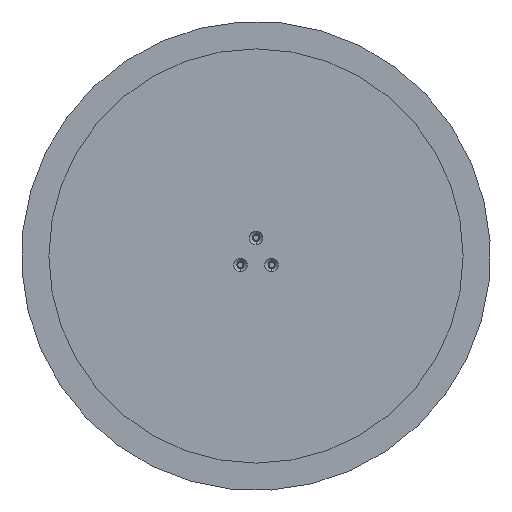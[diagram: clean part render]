
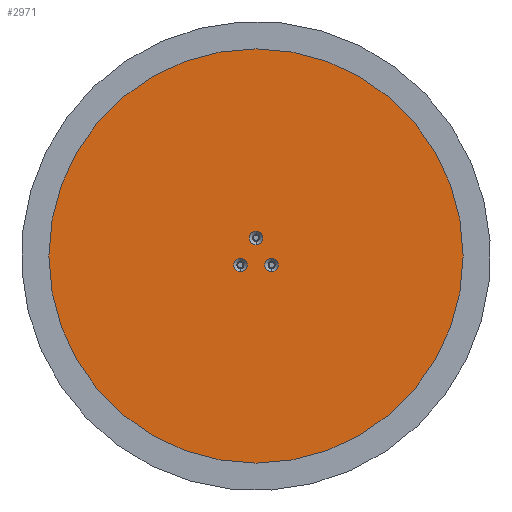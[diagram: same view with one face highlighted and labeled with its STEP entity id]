
A CAD part, front view. The second image highlights one B-rep face of the part: STEP entity #2971.
In plain terms, the highlighted planar face has unit normal (0, -1, 0).
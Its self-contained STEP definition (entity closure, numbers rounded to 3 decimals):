
#119 = ORIENTED_EDGE ( 'NONE', *, *, #4651, .F. ) ;
#135 = CARTESIAN_POINT ( 'NONE',  ( -20., 0., -20.197 ) ) ;
#201 = EDGE_LOOP ( 'NONE', ( #119, #4192 ) ) ;
#203 = VERTEX_POINT ( 'NONE', #3864 ) ;
#217 = FACE_BOUND ( 'NONE', #4237, .T. ) ;
#219 = AXIS2_PLACEMENT_3D ( 'NONE', #2566, #1546, #433 ) ;
#329 = AXIS2_PLACEMENT_3D ( 'NONE', #934, #3479, #1999 ) ;
#433 = DIRECTION ( 'NONE',  ( 0., 0., -1. ) ) ;
#555 = DIRECTION ( 'NONE',  ( 0., -1., 0. ) ) ;
#797 = DIRECTION ( 'NONE',  ( 0., 0., -1. ) ) ;
#934 = CARTESIAN_POINT ( 'NONE',  ( 0., 0., 0. ) ) ;
#980 = CARTESIAN_POINT ( 'NONE',  ( 0., 0., -265. ) ) ;
#997 = DIRECTION ( 'NONE',  ( 0., 0., 1. ) ) ;
#1020 = AXIS2_PLACEMENT_3D ( 'NONE', #4277, #1027, #1754 ) ;
#1027 = DIRECTION ( 'NONE',  ( 0., -1., 0. ) ) ;
#1041 = AXIS2_PLACEMENT_3D ( 'NONE', #4466, #3423, #3703 ) ;
#1198 = CIRCLE ( 'NONE', #2251, 8.65 ) ;
#1233 = CARTESIAN_POINT ( 'NONE',  ( 0., 0., 14.444 ) ) ;
#1413 = DIRECTION ( 'NONE',  ( 0., 1., 0. ) ) ;
#1432 = CIRCLE ( 'NONE', #219, 8.65 ) ;
#1491 = CIRCLE ( 'NONE', #2019, 265. ) ;
#1546 = DIRECTION ( 'NONE',  ( 0., -1., 0. ) ) ;
#1587 = FACE_BOUND ( 'NONE', #4220, .T. ) ;
#1638 = CIRCLE ( 'NONE', #3089, 8.65 ) ;
#1683 = AXIS2_PLACEMENT_3D ( 'NONE', #2098, #1413, #997 ) ;
#1684 = VERTEX_POINT ( 'NONE', #4670 ) ;
#1716 = CIRCLE ( 'NONE', #1041, 8.65 ) ;
#1754 = DIRECTION ( 'NONE',  ( 0., 0., -1. ) ) ;
#1813 = ORIENTED_EDGE ( 'NONE', *, *, #4617, .F. ) ;
#1819 = ORIENTED_EDGE ( 'NONE', *, *, #2803, .F. ) ;
#1999 = DIRECTION ( 'NONE',  ( 0., 0., 1. ) ) ;
#2019 = AXIS2_PLACEMENT_3D ( 'NONE', #2647, #3036, #4154 ) ;
#2048 = ORIENTED_EDGE ( 'NONE', *, *, #4664, .F. ) ;
#2098 = CARTESIAN_POINT ( 'NONE',  ( 0., 0., 0. ) ) ;
#2214 = EDGE_CURVE ( 'NONE', #3595, #2255, #1198, .T. ) ;
#2251 = AXIS2_PLACEMENT_3D ( 'NONE', #3809, #555, #3093 ) ;
#2252 = DIRECTION ( 'NONE',  ( 0., -1., 0. ) ) ;
#2255 = VERTEX_POINT ( 'NONE', #2846 ) ;
#2300 = CARTESIAN_POINT ( 'NONE',  ( 0., 0., 23.094 ) ) ;
#2566 = CARTESIAN_POINT ( 'NONE',  ( 0., 0., 23.094 ) ) ;
#2647 = CARTESIAN_POINT ( 'NONE',  ( 0., 0., 0. ) ) ;
#2709 = VERTEX_POINT ( 'NONE', #3104 ) ;
#2747 = CIRCLE ( 'NONE', #1683, 265. ) ;
#2803 = EDGE_CURVE ( 'NONE', #2970, #2709, #2747, .T. ) ;
#2846 = CARTESIAN_POINT ( 'NONE',  ( -20., 0., -2.897 ) ) ;
#2873 = AXIS2_PLACEMENT_3D ( 'NONE', #4050, #3711, #797 ) ;
#2970 = VERTEX_POINT ( 'NONE', #980 ) ;
#2971 = ADVANCED_FACE ( 'NONE', ( #3454, #1587, #217, #3760 ), #4185, .F. ) ;
#3011 = DIRECTION ( 'NONE',  ( 0., 0., -1. ) ) ;
#3036 = DIRECTION ( 'NONE',  ( 0., 1., 0. ) ) ;
#3059 = CIRCLE ( 'NONE', #1020, 8.65 ) ;
#3089 = AXIS2_PLACEMENT_3D ( 'NONE', #2300, #2252, #3011 ) ;
#3093 = DIRECTION ( 'NONE',  ( 0., 0., -1. ) ) ;
#3104 = CARTESIAN_POINT ( 'NONE',  ( 0., 0., 265. ) ) ;
#3209 = EDGE_CURVE ( 'NONE', #3241, #203, #3059, .T. ) ;
#3241 = VERTEX_POINT ( 'NONE', #4639 ) ;
#3339 = ORIENTED_EDGE ( 'NONE', *, *, #3209, .F. ) ;
#3407 = CIRCLE ( 'NONE', #2873, 8.65 ) ;
#3423 = DIRECTION ( 'NONE',  ( 0., -1., 0. ) ) ;
#3454 = FACE_BOUND ( 'NONE', #201, .T. ) ;
#3479 = DIRECTION ( 'NONE',  ( 0., 1., 0. ) ) ;
#3534 = ORIENTED_EDGE ( 'NONE', *, *, #4048, .F. ) ;
#3576 = VERTEX_POINT ( 'NONE', #1233 ) ;
#3595 = VERTEX_POINT ( 'NONE', #135 ) ;
#3703 = DIRECTION ( 'NONE',  ( 0., 0., -1. ) ) ;
#3711 = DIRECTION ( 'NONE',  ( 0., -1., 0. ) ) ;
#3760 = FACE_OUTER_BOUND ( 'NONE', #3838, .T. ) ;
#3809 = CARTESIAN_POINT ( 'NONE',  ( -20., 0., -11.547 ) ) ;
#3838 = EDGE_LOOP ( 'NONE', ( #1819, #1813 ) ) ;
#3864 = CARTESIAN_POINT ( 'NONE',  ( 20., 0., -2.897 ) ) ;
#4048 = EDGE_CURVE ( 'NONE', #2255, #3595, #3407, .T. ) ;
#4050 = CARTESIAN_POINT ( 'NONE',  ( -20., 0., -11.547 ) ) ;
#4143 = EDGE_CURVE ( 'NONE', #1684, #3576, #1432, .T. ) ;
#4154 = DIRECTION ( 'NONE',  ( 0., 0., 1. ) ) ;
#4185 = PLANE ( 'NONE',  #329 ) ;
#4192 = ORIENTED_EDGE ( 'NONE', *, *, #4143, .F. ) ;
#4220 = EDGE_LOOP ( 'NONE', ( #3339, #2048 ) ) ;
#4237 = EDGE_LOOP ( 'NONE', ( #4672, #3534 ) ) ;
#4277 = CARTESIAN_POINT ( 'NONE',  ( 20., 0., -11.547 ) ) ;
#4466 = CARTESIAN_POINT ( 'NONE',  ( 20., 0., -11.547 ) ) ;
#4617 = EDGE_CURVE ( 'NONE', #2709, #2970, #1491, .T. ) ;
#4639 = CARTESIAN_POINT ( 'NONE',  ( 20., 0., -20.197 ) ) ;
#4651 = EDGE_CURVE ( 'NONE', #3576, #1684, #1638, .T. ) ;
#4664 = EDGE_CURVE ( 'NONE', #203, #3241, #1716, .T. ) ;
#4670 = CARTESIAN_POINT ( 'NONE',  ( 0., 0., 31.744 ) ) ;
#4672 = ORIENTED_EDGE ( 'NONE', *, *, #2214, .F. ) ;
